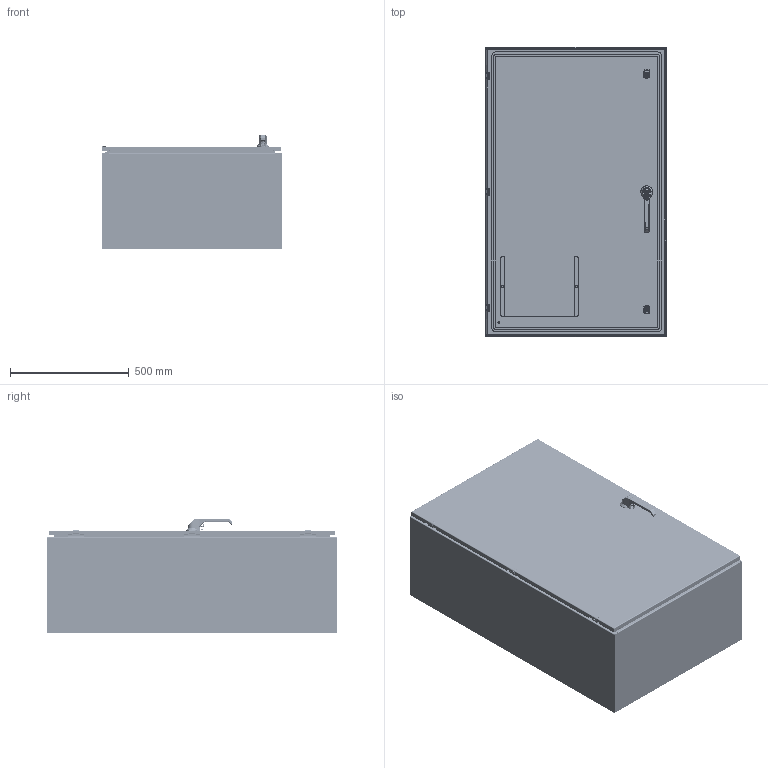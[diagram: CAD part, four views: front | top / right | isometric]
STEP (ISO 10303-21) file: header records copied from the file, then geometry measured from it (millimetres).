
FILE_DESCRIPTION((''),'2;1');
FILE_NAME('MODEL-032_ASM','2020-04-01T13:33:02',('dougp'),('SAGINAW CONTROL & ENGINEERING'),'CREO PARAMETRIC BY PTC INC, 2017260','CREO PARAMETRIC BY PTC INC, 2017260','');
FILE_SCHEMA(('AUTOMOTIVE_DESIGN { 1 0 10303 214 1 1 1 1 }'));
Length unit declared in the file: inch
Products named in the file (49): MODEL-032-BDY; MODEL-032-TP; MODEL-032-BTM; MODEL-032-DR; 100837; 100882; 111267; 100954_HANDLE; 100954_HANDLE_INSERT; 100954_SHAFT_CAM; 100954_ADAPTER_CAM; 100954_NUT_CAM; 100954_BASE; 100954_O-RING; 100954_NUT_MOUNTING_LARGE; 100954_NUT_MOUNTING_SMALL; 100954_SCREW_SMALL; 100954_INSERT; 100954_PADLOCK_CATCH; 100954_STOP_CAM; 100954_ASM; 102237; 100030; 102237_ASM; MODEL-032-ROD-UPR; 128146; 128145; 128144; 102482; MODEL-032-ROD-UPR_ASM; 128143; 112504; MODEL-032-ROD-LWR; MODEL-032-ROD-LWR_ASM; MODEL-032-POUR-GSKT; 126391; 126397; 126391_ASM; 126393; 102483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
Assembly tree (93 placements, depth 4):
  MODEL-032_ASM
    MODEL-032-BDY
    MODEL-032-TP
    MODEL-032-BTM
    MODEL-032-DOOR-ASSY_ASM
      MODEL-032-DR
      100837  x5
      100882  x4
      111267
      100954_ASM
        100954_HANDLE
        100954_HANDLE_INSERT
        100954_SHAFT_CAM
        100954_ADAPTER_CAM
        100954_NUT_CAM
        100954_BASE
        100954_O-RING
        100954_NUT_MOUNTING_LARGE
        100954_NUT_MOUNTING_SMALL
        100954_SCREW_SMALL
        100954_INSERT
        100954_PADLOCK_CATCH
        100954_STOP_CAM
      102237_ASM
        102237
        100030  x2
      MODEL-032-ROD-UPR_ASM
        MODEL-032-ROD-UPR
        128146
        128145
        128144
        102482  x2
      128143  x2
      112504  x2
      MODEL-032-ROD-LWR_ASM
        MODEL-032-ROD-LWR
        128146
        128145
        128144
        102482  x2
      MODEL-032-POUR-GSKT
      126391_ASM  x3
        126391
        126397
      126393  x3
      102483  x9
      101376  x3
      101226  x3
      102140  x3
    100837
    101653  x6
    SUBPANEL-SUBASSEMBLY_ASM
      SUBPANEL
      100904  x6
Bounding box: 762 x 1219.2 x 483.83 mm (x, y, z)
Volume: 10725181.6 mm3; surface area: 9664743.7 mm2
Topology: 88 solids, 88 shells, 7006 faces, 17835 edges, 11033 vertices
Faces by surface type: plane 2528, cylinder 1921, bspline 1153, torus 596, cone 574, sphere 234
Entity records: 213813 total; most frequent: CARTESIAN_POINT 72632, ORIENTED_EDGE 21262, DIRECTION 19483, PRESENTATION_STYLE_ASSIGNMENT 10777, STYLED_ITEM 10672, CURVE_STYLE 10631, EDGE_CURVE 10631, AXIS2_PLACEMENT_3D 7291
